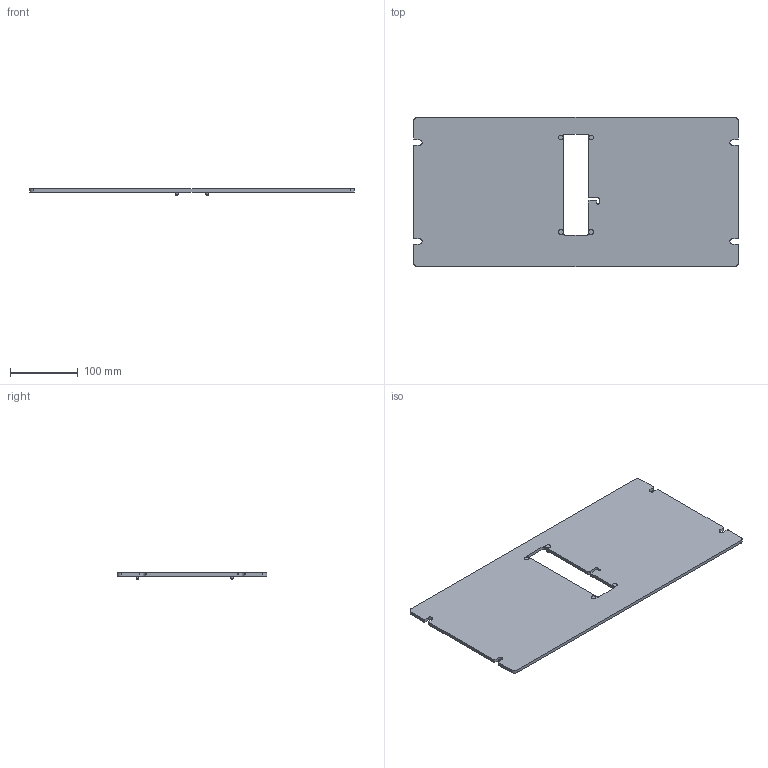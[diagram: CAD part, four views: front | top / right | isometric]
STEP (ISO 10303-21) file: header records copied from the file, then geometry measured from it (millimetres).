
FILE_DESCRIPTION((''),'2;1');
FILE_NAME('C:\old_Drawings\shrinkwrapped website .stp files\561364-STP.stp','2011-05-23T15:13:39',('GaryRobinson'),(''),'Autodesk Inventor 2011','Autodesk Inventor 2011','');
FILE_SCHEMA(('CONFIG_CONTROL_DESIGN'));
Length unit declared in the file: inch
Products named in the file (1): 561364-STP
Bounding box: 479.43 x 221.46 x 9.53 mm (x, y, z)
Surface area: 210378.7 mm2 (no closed solid volume)
Topology: 0 solids, 5 shells, 72 faces, 178 edges, 116 vertices
Faces by surface type: plane 35, cylinder 29, cone 8
Full cylindrical faces by diameter (mm): 3.505 x4
Entity records: 2202 total; most frequent: DIRECTION 378, CARTESIAN_POINT 355, ORIENTED_EDGE 332, EDGE_CURVE 166, AXIS2_PLACEMENT_3D 139, VERTEX_POINT 116, VECTOR 100, LINE 100
